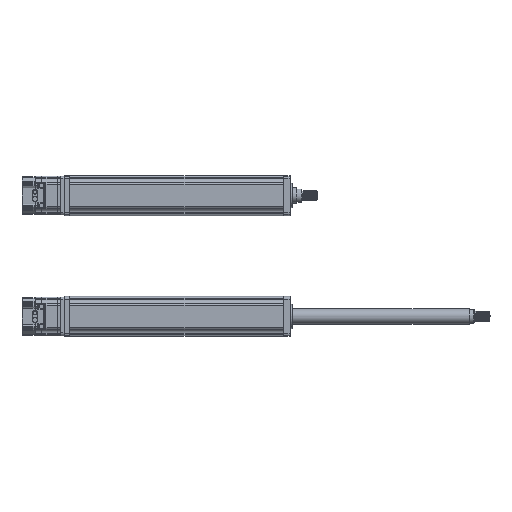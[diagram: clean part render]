
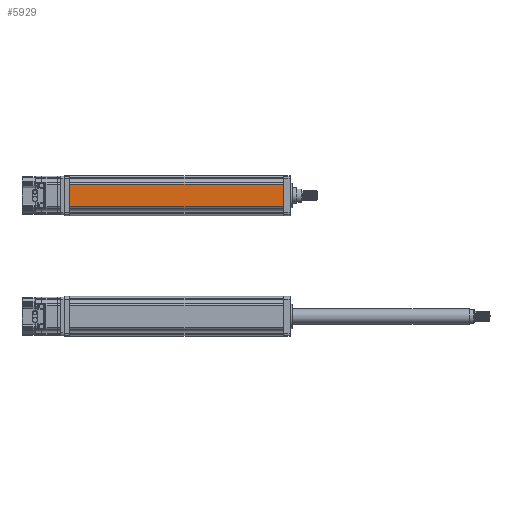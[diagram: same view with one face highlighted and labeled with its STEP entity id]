
A CAD part, top view. The second image highlights one B-rep face of the part: STEP entity #5929.
In plain terms, the highlighted planar face has unit normal (0, 0, 1).
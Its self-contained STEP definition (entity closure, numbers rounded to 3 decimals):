
#5929=ADVANCED_FACE('',(#11633),#11634,.F.);
#11633=FACE_OUTER_BOUND('',#27495,.T.);
#11634=PLANE('',#27496);
#27495=EDGE_LOOP('',(#44304,#44305,#44306,#44307));
#27496=AXIS2_PLACEMENT_3D('',#44308,#44309,#44310);
#44304=ORIENTED_EDGE('',*,*,#48607,.F.);
#44305=ORIENTED_EDGE('',*,*,#49113,.F.);
#44306=ORIENTED_EDGE('',*,*,#50225,.F.);
#44307=ORIENTED_EDGE('',*,*,#51402,.F.);
#44308=CARTESIAN_POINT('',(604.0,182.885,13.684));
#44309=DIRECTION('',(0.,0.,-1.0));
#44310=DIRECTION('',(1.0,0.,0.));
#48607=EDGE_CURVE('',#57904,#57906,#57907,.T.);
#49113=EDGE_CURVE('',#58659,#57904,#58661,.T.);
#50225=EDGE_CURVE('',#60167,#58659,#60169,.T.);
#51402=EDGE_CURVE('',#57906,#60167,#61550,.T.);
#57904=VERTEX_POINT('',#90318);
#57906=VERTEX_POINT('',#90320);
#57907=LINE('',#90321,#90322);
#58659=VERTEX_POINT('',#91418);
#58661=LINE('',#91420,#91421);
#60167=VERTEX_POINT('',#96006);
#60169=LINE('',#96008,#96009);
#61550=LINE('',#104720,#104721);
#90318=CARTESIAN_POINT('',(914.0,150.885,13.684));
#90320=CARTESIAN_POINT('',(604.0,150.885,13.684));
#90321=CARTESIAN_POINT('',(759.0,150.885,13.684));
#90322=VECTOR('',#109581,1.938);
#91418=CARTESIAN_POINT('',(914.0,182.885,13.684));
#91420=CARTESIAN_POINT('',(914.0,166.885,13.684));
#91421=VECTOR('',#110148,1.0);
#96006=CARTESIAN_POINT('',(604.0,182.885,13.684));
#96008=CARTESIAN_POINT('',(759.0,182.885,13.684));
#96009=VECTOR('',#111201,1.938);
#104720=CARTESIAN_POINT('',(604.0,166.885,13.684));
#104721=VECTOR('',#112123,1.0);
#109581=DIRECTION('',(-1.0,0.,0.));
#110148=DIRECTION('',(0.,-1.0,0.0));
#111201=DIRECTION('',(1.0,0.,0.));
#112123=DIRECTION('',(0.,1.0,0.0));
